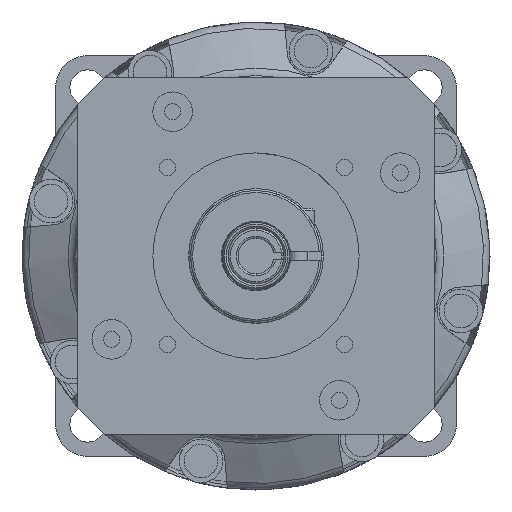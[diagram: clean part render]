
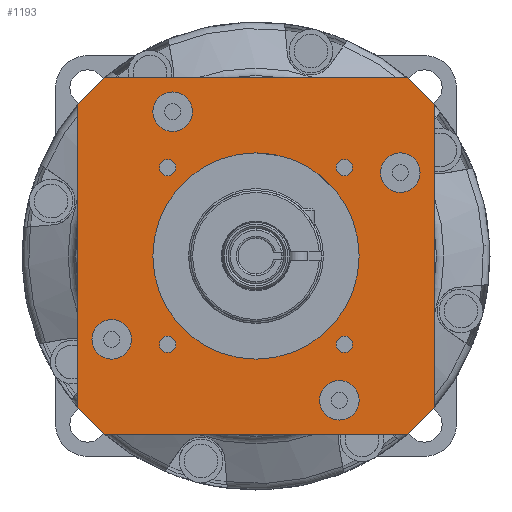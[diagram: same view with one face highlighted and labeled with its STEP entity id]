
A CAD part, left-side view. The second image highlights one B-rep face of the part: STEP entity #1193.
In plain terms, the highlighted planar face has unit normal (-1, 0, 0).
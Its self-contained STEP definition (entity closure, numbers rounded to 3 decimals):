
#1193=ADVANCED_FACE('',(#2431,#2432,#2433,#2434,#2435,#2436,#2437,#2438,#2439,#2440),#2441,.F.);
#2431=FACE_BOUND('',#3966,.T.);
#2432=FACE_BOUND('',#3967,.T.);
#2433=FACE_BOUND('',#3968,.T.);
#2434=FACE_BOUND('',#3969,.T.);
#2435=FACE_BOUND('',#3970,.T.);
#2436=FACE_BOUND('',#3971,.T.);
#2437=FACE_BOUND('',#3972,.T.);
#2438=FACE_BOUND('',#3973,.T.);
#2439=FACE_BOUND('',#3974,.T.);
#2440=FACE_OUTER_BOUND('',#3975,.T.);
#2441=PLANE('',#3976);
#3966=EDGE_LOOP('',(#7219,#7220));
#3967=EDGE_LOOP('',(#7221,#7222));
#3968=EDGE_LOOP('',(#7223,#7224));
#3969=EDGE_LOOP('',(#7225,#7226));
#3970=EDGE_LOOP('',(#7227,#7228));
#3971=EDGE_LOOP('',(#7229,#7230));
#3972=EDGE_LOOP('',(#7231,#7232));
#3973=EDGE_LOOP('',(#7233,#7234));
#3974=EDGE_LOOP('',(#7235,#7236));
#3975=EDGE_LOOP('',(#7237,#7238,#7239,#7240,#7241,#7242,#7243,#7244));
#3976=AXIS2_PLACEMENT_3D('',#7245,#7246,#7247);
#7219=ORIENTED_EDGE('',*,*,#8769,.T.);
#7220=ORIENTED_EDGE('',*,*,#8789,.T.);
#7221=ORIENTED_EDGE('',*,*,#8759,.T.);
#7222=ORIENTED_EDGE('',*,*,#8795,.T.);
#7223=ORIENTED_EDGE('',*,*,#8749,.T.);
#7224=ORIENTED_EDGE('',*,*,#8802,.T.);
#7225=ORIENTED_EDGE('',*,*,#8739,.T.);
#7226=ORIENTED_EDGE('',*,*,#8809,.T.);
#7227=ORIENTED_EDGE('',*,*,#8729,.T.);
#7228=ORIENTED_EDGE('',*,*,#8816,.T.);
#7229=ORIENTED_EDGE('',*,*,#8724,.T.);
#7230=ORIENTED_EDGE('',*,*,#8820,.T.);
#7231=ORIENTED_EDGE('',*,*,#8719,.T.);
#7232=ORIENTED_EDGE('',*,*,#8824,.T.);
#7233=ORIENTED_EDGE('',*,*,#8714,.T.);
#7234=ORIENTED_EDGE('',*,*,#8828,.T.);
#7235=ORIENTED_EDGE('',*,*,#8709,.T.);
#7236=ORIENTED_EDGE('',*,*,#8832,.T.);
#7237=ORIENTED_EDGE('',*,*,#8843,.T.);
#7238=ORIENTED_EDGE('',*,*,#8881,.T.);
#7239=ORIENTED_EDGE('',*,*,#8870,.T.);
#7240=ORIENTED_EDGE('',*,*,#8885,.T.);
#7241=ORIENTED_EDGE('',*,*,#8852,.T.);
#7242=ORIENTED_EDGE('',*,*,#8873,.T.);
#7243=ORIENTED_EDGE('',*,*,#8861,.T.);
#7244=ORIENTED_EDGE('',*,*,#8877,.T.);
#7245=CARTESIAN_POINT('',(-70.3,0.0,0.0));
#7246=DIRECTION('',(1.0,0.0,0.0));
#7247=DIRECTION('',(0.0,1.0,0.0));
#8709=EDGE_CURVE('',#10554,#10558,#10560,.T.);
#8714=EDGE_CURVE('',#10563,#10567,#10569,.T.);
#8719=EDGE_CURVE('',#10572,#10576,#10578,.T.);
#8724=EDGE_CURVE('',#10581,#10585,#10587,.T.);
#8729=EDGE_CURVE('',#10590,#10594,#10596,.T.);
#8739=EDGE_CURVE('',#10608,#10612,#10614,.T.);
#8749=EDGE_CURVE('',#10626,#10630,#10632,.T.);
#8759=EDGE_CURVE('',#10644,#10648,#10650,.T.);
#8769=EDGE_CURVE('',#10662,#10666,#10668,.T.);
#8789=EDGE_CURVE('',#10666,#10662,#10697,.T.);
#8795=EDGE_CURVE('',#10648,#10644,#10703,.T.);
#8802=EDGE_CURVE('',#10630,#10626,#10710,.T.);
#8809=EDGE_CURVE('',#10612,#10608,#10717,.T.);
#8816=EDGE_CURVE('',#10594,#10590,#10724,.T.);
#8820=EDGE_CURVE('',#10585,#10581,#10728,.T.);
#8824=EDGE_CURVE('',#10576,#10572,#10732,.T.);
#8828=EDGE_CURVE('',#10567,#10563,#10736,.T.);
#8832=EDGE_CURVE('',#10558,#10554,#10740,.T.);
#8843=EDGE_CURVE('',#10745,#10757,#10759,.T.);
#8852=EDGE_CURVE('',#10762,#10774,#10776,.T.);
#8861=EDGE_CURVE('',#10779,#10791,#10793,.T.);
#8870=EDGE_CURVE('',#10796,#10808,#10810,.T.);
#8873=EDGE_CURVE('',#10774,#10779,#10813,.T.);
#8877=EDGE_CURVE('',#10791,#10745,#10817,.T.);
#8881=EDGE_CURVE('',#10757,#10796,#10821,.T.);
#8885=EDGE_CURVE('',#10808,#10762,#10825,.T.);
#10554=VERTEX_POINT('',#13843);
#10558=VERTEX_POINT('',#13848);
#10560=CIRCLE('',#13851,2.067);
#10563=VERTEX_POINT('',#13854);
#10567=VERTEX_POINT('',#13859);
#10569=CIRCLE('',#13862,2.067);
#10572=VERTEX_POINT('',#13865);
#10576=VERTEX_POINT('',#13870);
#10578=CIRCLE('',#13873,2.067);
#10581=VERTEX_POINT('',#13876);
#10585=VERTEX_POINT('',#13881);
#10587=CIRCLE('',#13884,2.067);
#10590=VERTEX_POINT('',#13887);
#10594=VERTEX_POINT('',#13892);
#10596=CIRCLE('',#13895,5.0);
#10608=VERTEX_POINT('',#13909);
#10612=VERTEX_POINT('',#13914);
#10614=CIRCLE('',#13917,5.0);
#10626=VERTEX_POINT('',#13931);
#10630=VERTEX_POINT('',#13936);
#10632=CIRCLE('',#13939,5.0);
#10644=VERTEX_POINT('',#13953);
#10648=VERTEX_POINT('',#13958);
#10650=CIRCLE('',#13961,5.0);
#10662=VERTEX_POINT('',#13975);
#10666=VERTEX_POINT('',#13980);
#10668=CIRCLE('',#13983,26.0);
#10697=CIRCLE('',#14083,26.0);
#10703=CIRCLE('',#14089,5.0);
#10710=CIRCLE('',#14096,5.0);
#10717=CIRCLE('',#14103,5.0);
#10724=CIRCLE('',#14110,5.0);
#10728=CIRCLE('',#14114,2.067);
#10732=CIRCLE('',#14118,2.067);
#10736=CIRCLE('',#14122,2.067);
#10740=CIRCLE('',#14126,2.067);
#10745=VERTEX_POINT('',#14131);
#10757=VERTEX_POINT('',#14239);
#10759=LINE('',#14242,#14243);
#10762=VERTEX_POINT('',#14246);
#10774=VERTEX_POINT('',#14354);
#10776=LINE('',#14357,#14358);
#10779=VERTEX_POINT('',#14361);
#10791=VERTEX_POINT('',#14469);
#10793=LINE('',#14472,#14473);
#10796=VERTEX_POINT('',#14476);
#10808=VERTEX_POINT('',#14584);
#10810=LINE('',#14587,#14588);
#10813=CIRCLE('',#14591,59.0);
#10817=CIRCLE('',#14595,59.0);
#10821=CIRCLE('',#14599,59.0);
#10825=CIRCLE('',#14603,59.0);
#13843=CARTESIAN_POINT('',(-70.3,-20.207,-22.274));
#13848=CARTESIAN_POINT('',(-70.3,-24.341,-22.274));
#13851=AXIS2_PLACEMENT_3D('',#16620,#16621,#16622);
#13854=CARTESIAN_POINT('',(-70.3,-20.207,22.274));
#13859=CARTESIAN_POINT('',(-70.3,-24.341,22.274));
#13862=AXIS2_PLACEMENT_3D('',#16628,#16629,#16630);
#13865=CARTESIAN_POINT('',(-70.3,24.341,22.274));
#13870=CARTESIAN_POINT('',(-70.3,20.207,22.274));
#13873=AXIS2_PLACEMENT_3D('',#16636,#16637,#16638);
#13876=CARTESIAN_POINT('',(-70.3,24.341,-22.274));
#13881=CARTESIAN_POINT('',(-70.3,20.207,-22.274));
#13884=AXIS2_PLACEMENT_3D('',#16644,#16645,#16646);
#13887=CARTESIAN_POINT('',(-70.3,26.0,36.373));
#13892=CARTESIAN_POINT('',(-70.3,16.0,36.373));
#13895=AXIS2_PLACEMENT_3D('',#16652,#16653,#16654);
#13909=CARTESIAN_POINT('',(-70.3,41.373,-21.0));
#13914=CARTESIAN_POINT('',(-70.3,31.373,-21.0));
#13917=AXIS2_PLACEMENT_3D('',#16668,#16669,#16670);
#13931=CARTESIAN_POINT('',(-70.3,-16.0,-36.373));
#13936=CARTESIAN_POINT('',(-70.3,-26.0,-36.373));
#13939=AXIS2_PLACEMENT_3D('',#16684,#16685,#16686);
#13953=CARTESIAN_POINT('',(-70.3,-31.373,21.0));
#13958=CARTESIAN_POINT('',(-70.3,-41.373,21.0));
#13961=AXIS2_PLACEMENT_3D('',#16700,#16701,#16702);
#13975=CARTESIAN_POINT('',(-70.3,26.0,0.0));
#13980=CARTESIAN_POINT('',(-70.3,-26.0,0.));
#13983=AXIS2_PLACEMENT_3D('',#16716,#16717,#16718);
#14083=AXIS2_PLACEMENT_3D('',#16741,#16742,#16743);
#14089=AXIS2_PLACEMENT_3D('',#16753,#16754,#16755);
#14096=AXIS2_PLACEMENT_3D('',#16765,#16766,#16767);
#14103=AXIS2_PLACEMENT_3D('',#16777,#16778,#16779);
#14110=AXIS2_PLACEMENT_3D('',#16789,#16790,#16791);
#14114=AXIS2_PLACEMENT_3D('',#16795,#16796,#16797);
#14118=AXIS2_PLACEMENT_3D('',#16801,#16802,#16803);
#14122=AXIS2_PLACEMENT_3D('',#16807,#16808,#16809);
#14126=AXIS2_PLACEMENT_3D('',#16813,#16814,#16815);
#14131=CARTESIAN_POINT('',(-70.3,-45.0,-38.158));
#14239=CARTESIAN_POINT('',(-70.3,-45.0,38.158));
#14242=CARTESIAN_POINT('',(-70.3,-45.0,0.0));
#14243=VECTOR('',#16824,1.0);
#14246=CARTESIAN_POINT('',(-70.3,45.0,38.158));
#14354=CARTESIAN_POINT('',(-70.3,45.0,-38.158));
#14357=CARTESIAN_POINT('',(-70.3,45.0,0.0));
#14358=VECTOR('',#16830,1.0);
#14361=CARTESIAN_POINT('',(-70.3,38.158,-45.0));
#14469=CARTESIAN_POINT('',(-70.3,-38.158,-45.0));
#14472=CARTESIAN_POINT('',(-70.3,0.0,-45.0));
#14473=VECTOR('',#16836,1.0);
#14476=CARTESIAN_POINT('',(-70.3,-38.158,45.0));
#14584=CARTESIAN_POINT('',(-70.3,38.158,45.0));
#14587=CARTESIAN_POINT('',(-70.3,0.0,45.0));
#14588=VECTOR('',#16842,1.0);
#14591=AXIS2_PLACEMENT_3D('',#16846,#16847,#16848);
#14595=AXIS2_PLACEMENT_3D('',#16852,#16853,#16854);
#14599=AXIS2_PLACEMENT_3D('',#16861,#16862,#16863);
#14603=AXIS2_PLACEMENT_3D('',#16867,#16868,#16869);
#16620=CARTESIAN_POINT('',(-70.3,-22.274,-22.274));
#16621=DIRECTION('',(1.0,0.0,0.0));
#16622=DIRECTION('',(0.0,1.0,0.0));
#16628=CARTESIAN_POINT('',(-70.3,-22.274,22.274));
#16629=DIRECTION('',(1.0,0.0,0.0));
#16630=DIRECTION('',(0.0,1.0,0.0));
#16636=CARTESIAN_POINT('',(-70.3,22.274,22.274));
#16637=DIRECTION('',(1.0,0.0,0.0));
#16638=DIRECTION('',(0.0,1.0,0.0));
#16644=CARTESIAN_POINT('',(-70.3,22.274,-22.274));
#16645=DIRECTION('',(1.0,0.0,0.0));
#16646=DIRECTION('',(0.0,1.0,0.0));
#16652=CARTESIAN_POINT('',(-70.3,21.0,36.373));
#16653=DIRECTION('',(1.0,0.0,0.0));
#16654=DIRECTION('',(0.0,1.0,0.0));
#16668=CARTESIAN_POINT('',(-70.3,36.373,-21.0));
#16669=DIRECTION('',(1.0,0.0,0.0));
#16670=DIRECTION('',(0.0,1.0,0.0));
#16684=CARTESIAN_POINT('',(-70.3,-21.0,-36.373));
#16685=DIRECTION('',(1.0,0.0,0.0));
#16686=DIRECTION('',(0.0,1.0,0.0));
#16700=CARTESIAN_POINT('',(-70.3,-36.373,21.0));
#16701=DIRECTION('',(1.0,0.0,0.0));
#16702=DIRECTION('',(0.0,1.0,0.0));
#16716=CARTESIAN_POINT('',(-70.3,0.0,0.0));
#16717=DIRECTION('',(1.0,0.0,0.0));
#16718=DIRECTION('',(0.0,1.0,0.0));
#16741=CARTESIAN_POINT('',(-70.3,0.0,0.0));
#16742=DIRECTION('',(1.0,0.0,0.0));
#16743=DIRECTION('',(0.0,1.0,0.0));
#16753=CARTESIAN_POINT('',(-70.3,-36.373,21.0));
#16754=DIRECTION('',(1.0,0.0,0.0));
#16755=DIRECTION('',(0.0,1.0,0.0));
#16765=CARTESIAN_POINT('',(-70.3,-21.0,-36.373));
#16766=DIRECTION('',(1.0,0.0,0.0));
#16767=DIRECTION('',(0.0,1.0,0.0));
#16777=CARTESIAN_POINT('',(-70.3,36.373,-21.0));
#16778=DIRECTION('',(1.0,0.0,0.0));
#16779=DIRECTION('',(0.0,1.0,0.0));
#16789=CARTESIAN_POINT('',(-70.3,21.0,36.373));
#16790=DIRECTION('',(1.0,0.0,0.0));
#16791=DIRECTION('',(0.0,1.0,0.0));
#16795=CARTESIAN_POINT('',(-70.3,22.274,-22.274));
#16796=DIRECTION('',(1.0,0.0,0.0));
#16797=DIRECTION('',(0.0,1.0,0.0));
#16801=CARTESIAN_POINT('',(-70.3,22.274,22.274));
#16802=DIRECTION('',(1.0,0.0,0.0));
#16803=DIRECTION('',(0.0,1.0,0.0));
#16807=CARTESIAN_POINT('',(-70.3,-22.274,22.274));
#16808=DIRECTION('',(1.0,0.0,0.0));
#16809=DIRECTION('',(0.0,1.0,0.0));
#16813=CARTESIAN_POINT('',(-70.3,-22.274,-22.274));
#16814=DIRECTION('',(1.0,0.0,0.0));
#16815=DIRECTION('',(0.0,1.0,0.0));
#16824=DIRECTION('',(0.0,0.0,1.0));
#16830=DIRECTION('',(0.0,0.0,-1.0));
#16836=DIRECTION('',(0.0,-1.0,0.0));
#16842=DIRECTION('',(0.0,1.0,0.0));
#16846=CARTESIAN_POINT('',(-70.3,0.0,0.0));
#16847=DIRECTION('',(-1.0,0.0,0.0));
#16848=DIRECTION('',(0.0,1.0,0.0));
#16852=CARTESIAN_POINT('',(-70.3,0.0,0.0));
#16853=DIRECTION('',(-1.0,0.0,0.0));
#16854=DIRECTION('',(0.0,1.0,0.0));
#16861=CARTESIAN_POINT('',(-70.3,0.0,0.0));
#16862=DIRECTION('',(-1.0,0.0,0.0));
#16863=DIRECTION('',(0.0,1.0,0.0));
#16867=CARTESIAN_POINT('',(-70.3,0.0,0.0));
#16868=DIRECTION('',(-1.0,0.0,0.0));
#16869=DIRECTION('',(0.0,1.0,0.0));
